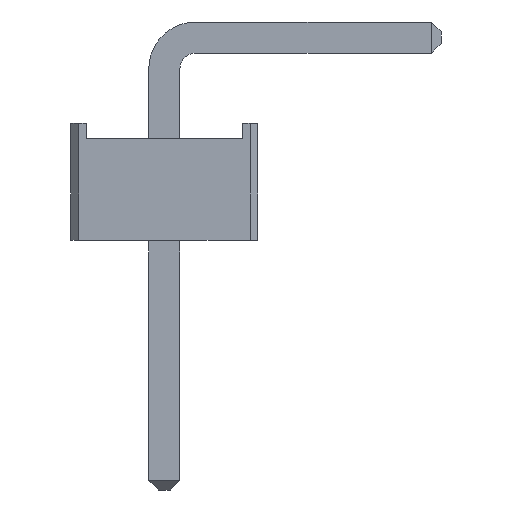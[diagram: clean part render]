
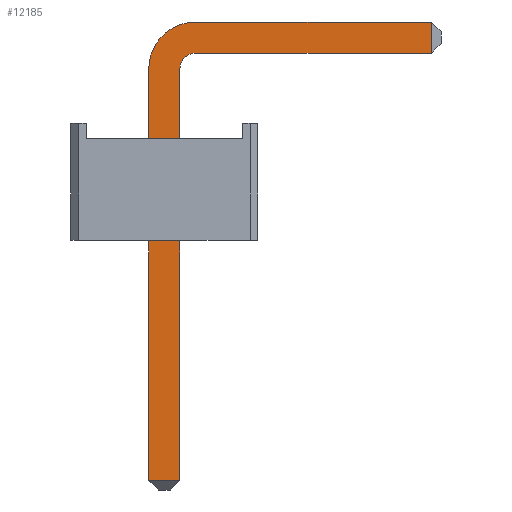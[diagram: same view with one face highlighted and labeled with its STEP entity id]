
A CAD part, left-side view. The second image highlights one B-rep face of the part: STEP entity #12185.
In plain terms, the highlighted planar face has unit normal (-1, 0, 0).
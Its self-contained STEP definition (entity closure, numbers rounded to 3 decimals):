
#175=CIRCLE('',#12961,0.6);
#176=CIRCLE('',#12962,0.2);
#265=FACE_OUTER_BOUND('',#985,.T.);
#985=EDGE_LOOP('',(#8025,#8026,#8027,#8028,#8029,#8030,#8031,#8032));
#1740=LINE('',#17046,#3420);
#1747=LINE('',#17058,#3427);
#1754=LINE('',#17079,#3434);
#1763=LINE('',#17095,#3443);
#1765=LINE('',#17100,#3445);
#1766=LINE('',#17103,#3446);
#3420=VECTOR('',#13761,10.);
#3427=VECTOR('',#13772,10.);
#3434=VECTOR('',#13789,10.);
#3443=VECTOR('',#13806,10.);
#3445=VECTOR('',#13812,10.);
#3446=VECTOR('',#13815,10.);
#5097=VERTEX_POINT('',#17039);
#5099=VERTEX_POINT('',#17045);
#5102=VERTEX_POINT('',#17056);
#5110=VERTEX_POINT('',#17076);
#5111=VERTEX_POINT('',#17078);
#5114=VERTEX_POINT('',#17094);
#5115=VERTEX_POINT('',#17099);
#5116=VERTEX_POINT('',#17101);
#6220=EDGE_CURVE('',#5099,#5097,#1740,.T.);
#6227=EDGE_CURVE('',#5099,#5102,#1747,.T.);
#6236=EDGE_CURVE('',#5110,#5111,#1754,.T.);
#6245=EDGE_CURVE('',#5114,#5111,#1763,.T.);
#6247=EDGE_CURVE('',#5102,#5114,#175,.T.);
#6248=EDGE_CURVE('',#5115,#5110,#1765,.T.);
#6249=EDGE_CURVE('',#5116,#5115,#176,.T.);
#6250=EDGE_CURVE('',#5097,#5116,#1766,.T.);
#8025=ORIENTED_EDGE('',*,*,#6220,.F.);
#8026=ORIENTED_EDGE('',*,*,#6227,.T.);
#8027=ORIENTED_EDGE('',*,*,#6247,.T.);
#8028=ORIENTED_EDGE('',*,*,#6245,.T.);
#8029=ORIENTED_EDGE('',*,*,#6236,.F.);
#8030=ORIENTED_EDGE('',*,*,#6248,.F.);
#8031=ORIENTED_EDGE('',*,*,#6249,.F.);
#8032=ORIENTED_EDGE('',*,*,#6250,.F.);
#11505=PLANE('',#12960);
#12185=ADVANCED_FACE('',(#265),#11505,.T.);
#12960=AXIS2_PLACEMENT_3D('',#17097,#13808,#13809);
#12961=AXIS2_PLACEMENT_3D('',#17098,#13810,#13811);
#12962=AXIS2_PLACEMENT_3D('',#17102,#13813,#13814);
#13761=DIRECTION('',(0.,0.,-1.));
#13772=DIRECTION('',(0.,1.,0.));
#13789=DIRECTION('',(0.,1.,0.));
#13806=DIRECTION('',(0.,0.,-1.));
#13808=DIRECTION('center_axis',(-1.,0.,0.));
#13809=DIRECTION('ref_axis',(0.,0.,1.));
#13810=DIRECTION('center_axis',(-1.,0.,0.));
#13811=DIRECTION('ref_axis',(0.,0.,1.));
#13812=DIRECTION('',(0.,0.,-1.));
#13813=DIRECTION('center_axis',(-1.,0.,0.));
#13814=DIRECTION('ref_axis',(0.,0.,1.));
#13815=DIRECTION('',(0.,1.,0.));
#17039=CARTESIAN_POINT('',(-0.2,0.125,-0.2));
#17045=CARTESIAN_POINT('',(-0.2,0.125,0.2));
#17046=CARTESIAN_POINT('',(-0.2,0.125,-0.1));
#17056=CARTESIAN_POINT('',(-0.2,3.15,0.2));
#17058=CARTESIAN_POINT('',(-0.2,0.,0.2));
#17076=CARTESIAN_POINT('',(-0.2,3.35,-5.675));
#17078=CARTESIAN_POINT('',(-0.2,3.75,-5.675));
#17079=CARTESIAN_POINT('',(-0.2,1.775,-5.675));
#17094=CARTESIAN_POINT('',(-0.2,3.75,-0.4));
#17095=CARTESIAN_POINT('',(-0.2,3.75,-0.4));
#17097=CARTESIAN_POINT('Origin',(-0.2,0.,-0.2));
#17098=CARTESIAN_POINT('Origin',(-0.2,3.15,-0.4));
#17099=CARTESIAN_POINT('',(-0.2,3.35,-0.4));
#17100=CARTESIAN_POINT('',(-0.2,3.35,-0.4));
#17101=CARTESIAN_POINT('',(-0.2,3.15,-0.2));
#17102=CARTESIAN_POINT('Origin',(-0.2,3.15,-0.4));
#17103=CARTESIAN_POINT('',(-0.2,0.,-0.2));
